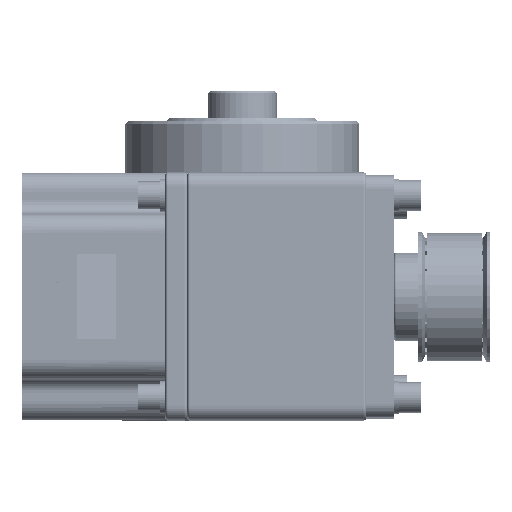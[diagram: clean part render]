
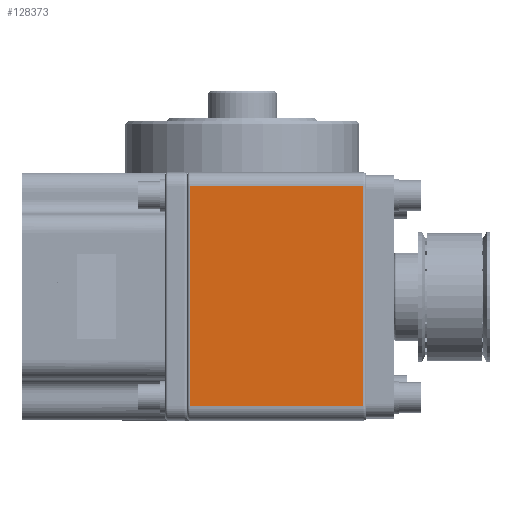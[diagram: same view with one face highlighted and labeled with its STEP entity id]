
A CAD part, top view. The second image highlights one B-rep face of the part: STEP entity #128373.
In plain terms, the highlighted planar face has unit normal (0, 0, 1).
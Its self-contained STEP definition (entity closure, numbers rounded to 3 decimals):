
#1725 = VECTOR ( 'NONE', #131701, 1000. ) ;
#18371 = VECTOR ( 'NONE', #159755, 1000. ) ;
#23711 = CARTESIAN_POINT ( 'NONE',  ( -20., 5., 193.72 ) ) ;
#32121 = PLANE ( 'NONE',  #39701 ) ;
#32679 = VECTOR ( 'NONE', #218071, 1000. ) ;
#39701 = AXIS2_PLACEMENT_3D ( 'NONE', #50955, #51793, #187674 ) ;
#44649 = VECTOR ( 'NONE', #175118, 1000. ) ;
#50955 = CARTESIAN_POINT ( 'NONE',  ( -20., 85., 193.72 ) ) ;
#51793 = DIRECTION ( 'NONE',  ( 0., 0., -1. ) ) ;
#53807 = LINE ( 'NONE', #112167, #1725 ) ;
#58233 = VERTEX_POINT ( 'NONE', #226415 ) ;
#82189 = CARTESIAN_POINT ( 'NONE',  ( -20., 85., 193.72 ) ) ;
#82551 = CARTESIAN_POINT ( 'NONE',  ( -19., 85., 193.72 ) ) ;
#90947 = CARTESIAN_POINT ( 'NONE',  ( 44., 85., 193.72 ) ) ;
#96638 = VERTEX_POINT ( 'NONE', #90947 ) ;
#98777 = FACE_OUTER_BOUND ( 'NONE', #221168, .T. ) ;
#102131 = CARTESIAN_POINT ( 'NONE',  ( 44., 5., 193.72 ) ) ;
#109031 = ORIENTED_EDGE ( 'NONE', *, *, #172136, .F. ) ;
#112167 = CARTESIAN_POINT ( 'NONE',  ( 44., 85., 193.72 ) ) ;
#128373 = ADVANCED_FACE ( 'NONE', ( #98777 ), #32121, .F. ) ;
#131701 = DIRECTION ( 'NONE',  ( 0., 1., 0. ) ) ;
#136922 = CARTESIAN_POINT ( 'NONE',  ( -19., 5., 193.72 ) ) ;
#146426 = VERTEX_POINT ( 'NONE', #82551 ) ;
#159755 = DIRECTION ( 'NONE',  ( 1., 0., 0. ) ) ;
#167529 = LINE ( 'NONE', #23711, #18371 ) ;
#170299 = EDGE_CURVE ( 'NONE', #58233, #186822, #167529, .T. ) ;
#170875 = ORIENTED_EDGE ( 'NONE', *, *, #170299, .T. ) ;
#172136 = EDGE_CURVE ( 'NONE', #146426, #96638, #181670, .T. ) ;
#172452 = EDGE_CURVE ( 'NONE', #146426, #58233, #193549, .T. ) ;
#172788 = EDGE_CURVE ( 'NONE', #186822, #96638, #53807, .T. ) ;
#175118 = DIRECTION ( 'NONE',  ( 0., -1., 0. ) ) ;
#181670 = LINE ( 'NONE', #82189, #32679 ) ;
#186822 = VERTEX_POINT ( 'NONE', #102131 ) ;
#187674 = DIRECTION ( 'NONE',  ( -1., 0., 0. ) ) ;
#193549 = LINE ( 'NONE', #136922, #44649 ) ;
#193988 = ORIENTED_EDGE ( 'NONE', *, *, #172452, .T. ) ;
#217216 = ORIENTED_EDGE ( 'NONE', *, *, #172788, .T. ) ;
#218071 = DIRECTION ( 'NONE',  ( 1., 0., 0. ) ) ;
#221168 = EDGE_LOOP ( 'NONE', ( #109031, #193988, #170875, #217216 ) ) ;
#226415 = CARTESIAN_POINT ( 'NONE',  ( -19., 5., 193.72 ) ) ;
